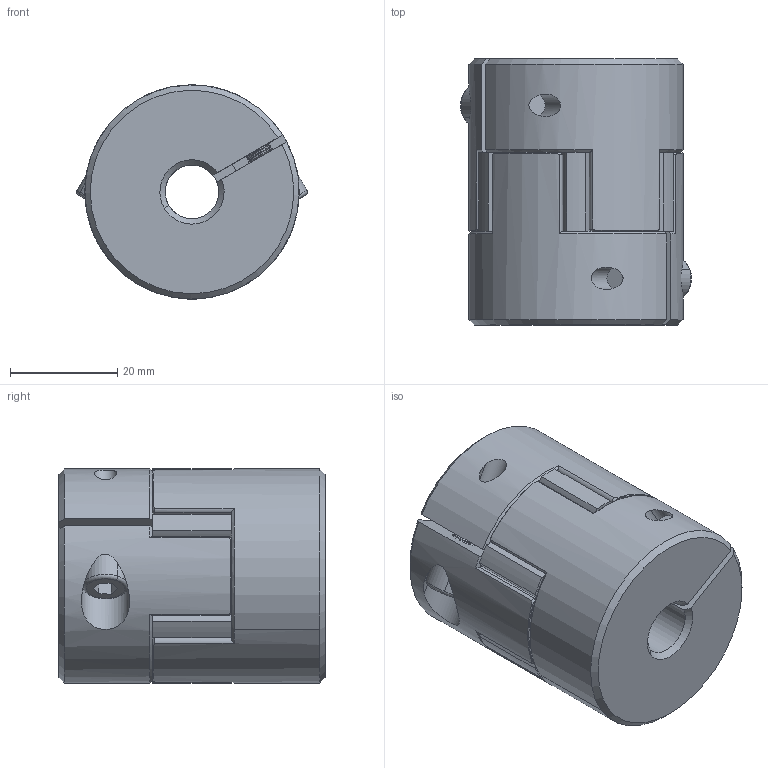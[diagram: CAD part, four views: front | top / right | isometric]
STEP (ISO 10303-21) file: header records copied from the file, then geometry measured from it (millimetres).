
FILE_DESCRIPTION (( 'STEP AP203' ), '1' );
FILE_NAME ('LF-B-D40L50-10-10.STEP', '2021-10-25T02:37:59', ( '' ), ( '' ), 'SwSTEP 2.0', 'SolidWorks 2018', '' );
FILE_SCHEMA (( 'CONFIG_CONTROL_DESIGN' ));
Length unit declared in the file: millimetre
Products named in the file (1): LF-B-D40L50-10-10
Bounding box: 43.11 x 49.7 x 40 mm (x, y, z)
Volume: 54090.6 mm3; surface area: 14657.3 mm2
Topology: 1 solids, 7 shells, 471 faces, 1117 edges, 662 vertices
Faces by surface type: cone 170, cylinder 169, plane 128, torus 4
Entity records: 13972 total; most frequent: CARTESIAN_POINT 2895, DIRECTION 2509, ORIENTED_EDGE 2226, EDGE_CURVE 1113, AXIS2_PLACEMENT_3D 1040, VERTEX_POINT 662, CIRCLE 568, EDGE_LOOP 487
